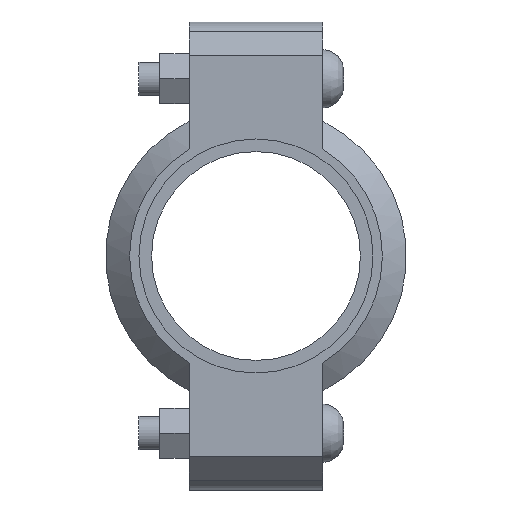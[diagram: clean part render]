
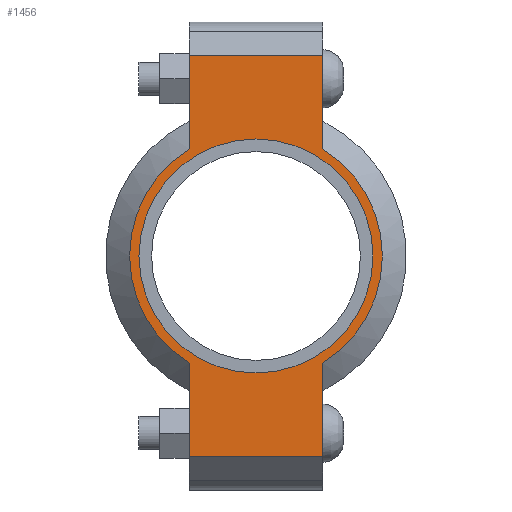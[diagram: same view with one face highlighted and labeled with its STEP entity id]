
A CAD part, left-side view. The second image highlights one B-rep face of the part: STEP entity #1456.
In plain terms, the highlighted planar face has unit normal (-1, 0, 0) as drawn and (0, 0, 1) by its records, which use the part's own axes.
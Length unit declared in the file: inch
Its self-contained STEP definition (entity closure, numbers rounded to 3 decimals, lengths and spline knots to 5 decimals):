
#136=LINE('',#2507,#227);
#144=LINE('',#2543,#235);
#151=LINE('',#2564,#242);
#160=LINE('',#2596,#251);
#161=LINE('',#2600,#252);
#162=LINE('',#2602,#253);
#227=VECTOR('',#2029,0.3937);
#235=VECTOR('',#2045,0.3937);
#242=VECTOR('',#2064,0.3937);
#251=VECTOR('',#2089,0.3937);
#252=VECTOR('',#2094,0.3937);
#253=VECTOR('',#2095,0.3937);
#305=FACE_BOUND('',#465,.T.);
#369=FACE_OUTER_BOUND('',#464,.T.);
#464=EDGE_LOOP('',(#1191,#1192,#1193,#1194,#1195,#1196,#1197,#1198));
#465=EDGE_LOOP('',(#1199));
#562=CIRCLE('',#1699,1.89);
#563=CIRCLE('',#1700,1.89);
#564=CIRCLE('',#1701,1.75);
#667=VERTEX_POINT('',#2504);
#668=VERTEX_POINT('',#2506);
#679=VERTEX_POINT('',#2538);
#680=VERTEX_POINT('',#2542);
#687=VERTEX_POINT('',#2561);
#688=VERTEX_POINT('',#2563);
#698=VERTEX_POINT('',#2599);
#699=VERTEX_POINT('',#2601);
#700=VERTEX_POINT('',#2604);
#831=EDGE_CURVE('',#668,#667,#136,.T.);
#845=EDGE_CURVE('',#680,#679,#144,.T.);
#855=EDGE_CURVE('',#688,#687,#151,.T.);
#870=EDGE_CURVE('',#680,#667,#160,.T.);
#871=EDGE_CURVE('',#679,#688,#562,.T.);
#872=EDGE_CURVE('',#698,#687,#161,.T.);
#873=EDGE_CURVE('',#698,#699,#162,.T.);
#874=EDGE_CURVE('',#699,#668,#563,.T.);
#875=EDGE_CURVE('',#700,#700,#564,.T.);
#1191=ORIENTED_EDGE('',*,*,#870,.F.);
#1192=ORIENTED_EDGE('',*,*,#845,.T.);
#1193=ORIENTED_EDGE('',*,*,#871,.T.);
#1194=ORIENTED_EDGE('',*,*,#855,.T.);
#1195=ORIENTED_EDGE('',*,*,#872,.F.);
#1196=ORIENTED_EDGE('',*,*,#873,.T.);
#1197=ORIENTED_EDGE('',*,*,#874,.T.);
#1198=ORIENTED_EDGE('',*,*,#831,.T.);
#1199=ORIENTED_EDGE('',*,*,#875,.T.);
#1310=PLANE('',#1698);
#1456=ADVANCED_FACE('',(#369,#305),#1310,.T.);
#1698=AXIS2_PLACEMENT_3D('',#2597,#2090,#2091);
#1699=AXIS2_PLACEMENT_3D('',#2598,#2092,#2093);
#1700=AXIS2_PLACEMENT_3D('',#2603,#2096,#2097);
#1701=AXIS2_PLACEMENT_3D('',#2605,#2098,#2099);
#2029=DIRECTION('',(-1.,0.,0.));
#2045=DIRECTION('',(1.,0.,0.));
#2064=DIRECTION('',(1.,0.,0.));
#2089=DIRECTION('',(0.,1.,0.));
#2090=DIRECTION('center_axis',(0.,0.,1.));
#2091=DIRECTION('ref_axis',(1.,0.,0.));
#2092=DIRECTION('center_axis',(0.,0.,1.));
#2093=DIRECTION('ref_axis',(-1.,0.,0.));
#2094=DIRECTION('',(0.,-1.,0.));
#2095=DIRECTION('',(-1.,0.,0.));
#2096=DIRECTION('center_axis',(0.,0.,1.));
#2097=DIRECTION('ref_axis',(-1.,0.,0.));
#2098=DIRECTION('center_axis',(0.,0.,-1.));
#2099=DIRECTION('ref_axis',(-1.,0.,0.));
#2504=CARTESIAN_POINT('',(-3.,1.,0.94));
#2506=CARTESIAN_POINT('',(-1.60378,1.,0.94));
#2507=CARTESIAN_POINT('',(-3.5,1.,0.94));
#2538=CARTESIAN_POINT('',(-1.60378,-1.,0.94));
#2542=CARTESIAN_POINT('',(-3.,-1.,0.94));
#2543=CARTESIAN_POINT('',(3.5,-1.,0.94));
#2561=CARTESIAN_POINT('',(3.,-1.,0.94));
#2563=CARTESIAN_POINT('',(1.60378,-1.,0.94));
#2564=CARTESIAN_POINT('',(3.5,-1.,0.94));
#2596=CARTESIAN_POINT('',(-3.,0.5,0.94));
#2597=CARTESIAN_POINT('Origin',(0.,0.,
0.94));
#2598=CARTESIAN_POINT('Origin',(0.,0.,0.94));
#2599=CARTESIAN_POINT('',(3.,1.,0.94));
#2600=CARTESIAN_POINT('',(3.,-0.5,0.94));
#2601=CARTESIAN_POINT('',(1.60378,1.,0.94));
#2602=CARTESIAN_POINT('',(-3.5,1.,0.94));
#2603=CARTESIAN_POINT('Origin',(0.,0.,0.94));
#2604=CARTESIAN_POINT('',(1.75,0.,0.94));
#2605=CARTESIAN_POINT('Origin',(0.,0.,0.94));
